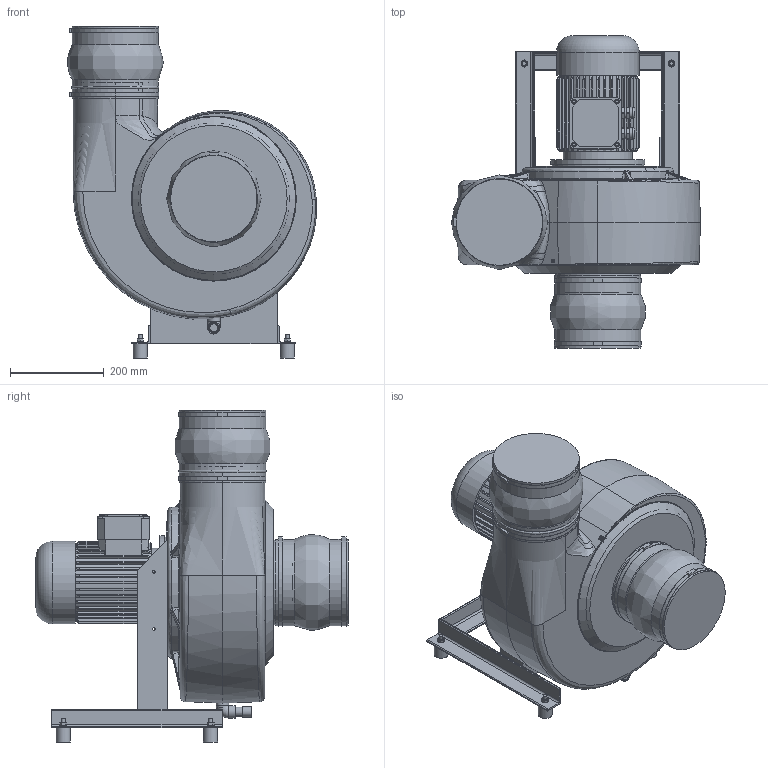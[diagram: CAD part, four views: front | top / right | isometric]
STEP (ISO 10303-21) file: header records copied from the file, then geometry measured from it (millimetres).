
FILE_DESCRIPTION( ( 'Unknown' ), '1' );
FILE_NAME( 'K:/HOME/HLT_CAD/Z/HF/3D/Zusammenstellung/HFR/HFR 15_17/HFR...-15D/DS_1/HFR_180-15D/GL360/HFR_180-15D_DS1_GL_360_090.stp', 'Unknown', ( 'Unknown' ), ( 'Unknown' ), 'PSStep 17.0.49', 'Unknown', ' ' );
FILE_SCHEMA( ( 'AUTOMOTIVE_DESIGN { 1 0 10303 214 1 1 1 1 }' ) );
Length unit declared in the file: millimetre
Products named in the file (30): 5294_Gestell; Angle 40x40x4-oa0; Angle 40x40x4-oa1; Angle 40x40x4-oa2; 5294_Gehäusebefestigung-oa3; Laufrad 180; Nabe 160-315; Deckscheibe 180; 1108_18; 5159_Kondensatablauf_125-315; Winkel_90°_G1_2; Stopfen_G1_2-oa4; Rohr_20; Verschlusskappe_20; 6203_Kugelmanschette; 6203_Manschettenband_HFR180; 6203_Schelle_HFR180; 5217_Laufradbefestigung; 5217_Drehteil; 5217_Flachdichtung_Ø32; 5217_Schraubkappe; 5217_Flachdichtung_Ø63; Assem1; 180 mit laufrad HF R 180; Schwidä_30x30; 6kant_M8; 6611_Motorring_Bg80; B5_90L_2HIHI; HFR 180_GL_abgeschn
Assembly tree (37 placements, depth 3):
  Assem1
    180 mit laufrad HF R 180
    Schwidä_30x30  x4
    6kant_M8  x4
    6611_Motorring_Bg80
    B5_90L_2HIHI
    HFR 180_GL_abgeschn
    5294_Gestell
      Angle 40x40x4-oa0
      Angle 40x40x4-oa1
      Angle 40x40x4-oa2
      5294_Gehäusebefestigung-oa3
    Laufrad 180
      Nabe 160-315
      Laufrad 180
      Deckscheibe 180
      1108_18
    5159_Kondensatablauf_125-315
      Winkel_90°_G1_2
      Stopfen_G1_2-oa4
      Rohr_20
      Verschlusskappe_20
    6203_Kugelmanschette  x2
      6203_Manschettenband_HFR180
      6203_Schelle_HFR180
    5217_Laufradbefestigung
      5217_Drehteil
      5217_Flachdichtung_Ø32
      5217_Schraubkappe
      5217_Flachdichtung_Ø63
Bounding box: 530.89 x 667 x 708 mm (x, y, z)
Volume: 20539792.7 mm3; surface area: 3049497.1 mm2
Topology: 33 solids, 34 shells, 1885 faces, 4465 edges, 2819 vertices
Faces by surface type: plane 903, cylinder 476, bspline 236, cone 121, torus 115, offset 28, revolution 6
Full cylindrical faces by diameter (mm): 3.5 x3, 5.5 x4, 6.647 x9, 8 x14, 9 x2, 10 x4, 10.5 x1, 11 x12, 12 x53, 13 x57, 13.5 x15, 16 x2, 17 x9, 20 x4, 20.955 x1, 22.212 x1, 23 x1, 24 x5, 25 x1, 26.5 x2, 28.8 x1, 30 x4, 30.291 x1, 32 x1, 33.25 x1, 37 x1, 40 x1, 44 x1, 46 x1, 50 x1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
Entity records: 127582 total; most frequent: CARTESIAN_POINT 74500, ORIENTED_EDGE 7694, DIRECTION 7348, EDGE_CURVE 3847, AXIS2_PLACEMENT_3D 2932, VERTEX_POINT 2594, EDGE_LOOP 2395, FACE_OUTER_BOUND 2094
